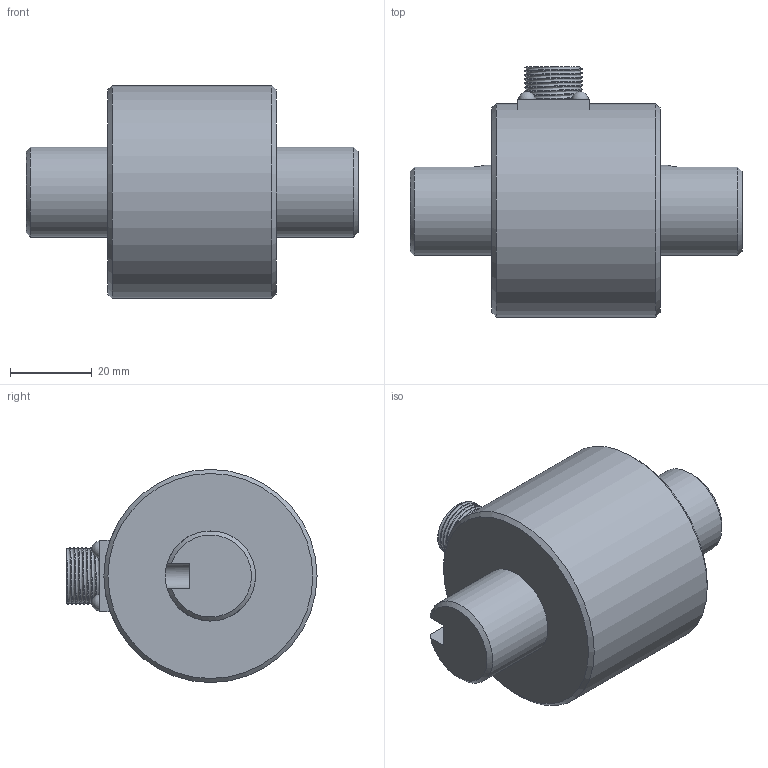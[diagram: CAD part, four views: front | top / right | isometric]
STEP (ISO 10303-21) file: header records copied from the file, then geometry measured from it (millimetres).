
FILE_DESCRIPTION(/* description */ (''),/* implementation_level */ '2;1');
FILE_NAME(/* name */ 'I:/New Datasheets/STEP Models/Pending models/YDNS/YDNS 20Nm-50Nm.step',/* time_stamp */ '2020-10-08T10:16:45+01:00',/* author */ (''),/* organization */ (''),/* preprocessor_version */ 'ST-DEVELOPER v18.1',/* originating_system */ 'Autodesk Translation Framework v9.3.0.1241',/* authorisation */ '');
FILE_SCHEMA (('AUTOMOTIVE_DESIGN { 1 0 10303 214 3 1 1 }'));
Length unit declared in the file: millimetre
Products named in the file (3): YDNS 20Nm-50Nm; YDNS 2~5KM Body; YDNS 2~5KM Shaft
Assembly tree (2 placements, depth 2):
  YDNS 20Nm-50Nm
    YDNS 2~5KM Body
    YDNS 2~5KM Shaft
Bounding box: 81 x 61 x 52 mm (x, y, z)
Volume: 102504.7 mm3; surface area: 20157.2 mm2
Topology: 2 solids, 2 shells, 39 faces, 98 edges, 65 vertices
Faces by surface type: plane 16, cylinder 14, sphere 4, cone 4, bspline 1
Full cylindrical faces by diameter (mm): 14 x7, 22 x2, 52 x1
Entity records: 3035 total; most frequent: CARTESIAN_POINT 2007, ORIENTED_EDGE 188, DIRECTION 181, EDGE_CURVE 94, AXIS2_PLACEMENT_3D 70, VERTEX_POINT 65, EDGE_LOOP 47, LINE 41
